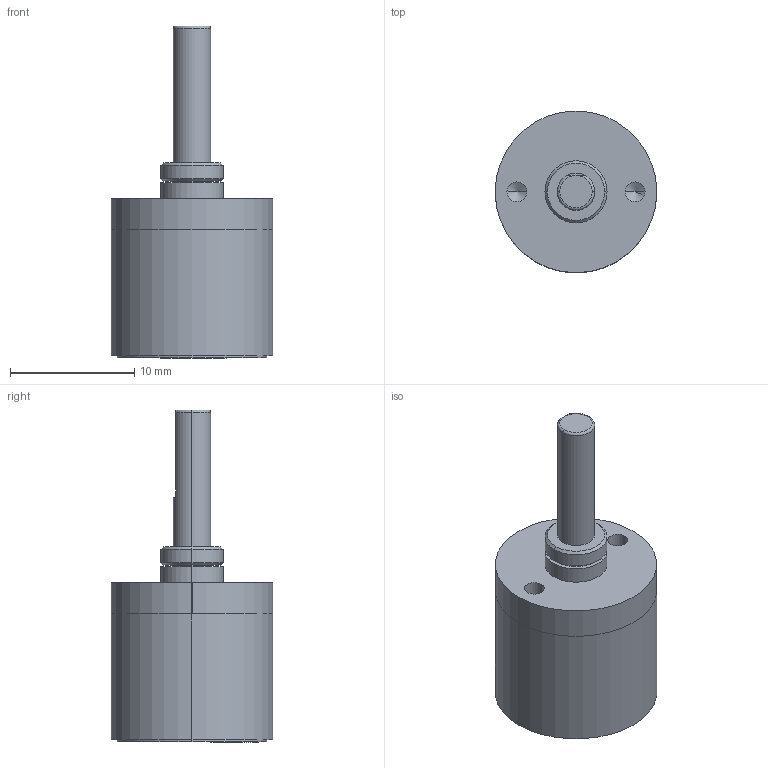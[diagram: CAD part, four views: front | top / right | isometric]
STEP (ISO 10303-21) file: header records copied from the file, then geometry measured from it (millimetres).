
FILE_DESCRIPTION (( 'STEP AP203' ), '1' );
FILE_NAME ('IG-13(I)-1stage.STEP', '2023-03-27T01:58:42', ( '' ), ( '' ), 'SwSTEP 2.0', 'SolidWorks 2019', '' );
FILE_SCHEMA (( 'CONFIG_CONTROL_DESIGN' ));
Length unit declared in the file: millimetre
Products named in the file (1): IG-13(I)-1stage
Bounding box: 13 x 13 x 26.7 mm (x, y, z)
Volume: 2088 mm3; surface area: 1420.8 mm2
Topology: 2 solids, 2 shells, 53 faces, 112 edges, 69 vertices
Faces by surface type: cylinder 28, plane 14, cone 8, torus 3
Entity records: 1514 total; most frequent: DIRECTION 281, CARTESIAN_POINT 249, ORIENTED_EDGE 216, AXIS2_PLACEMENT_3D 121, EDGE_CURVE 108, VERTEX_POINT 69, CIRCLE 67, EDGE_LOOP 67
